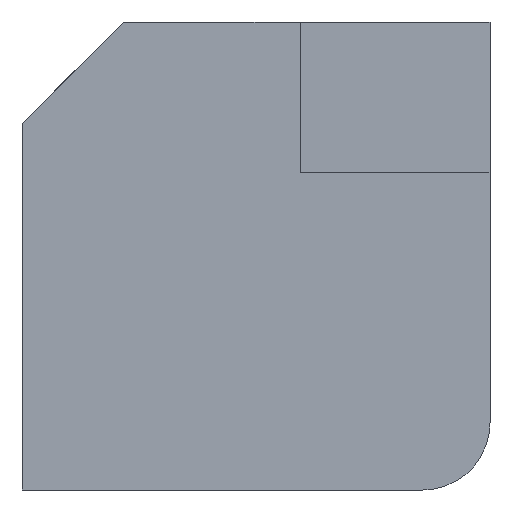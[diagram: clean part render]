
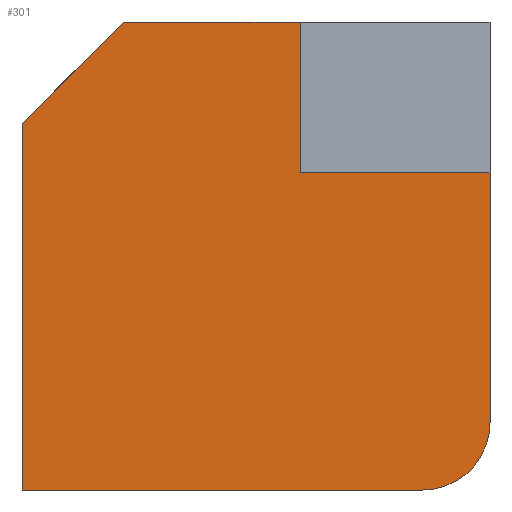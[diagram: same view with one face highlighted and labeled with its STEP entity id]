
A CAD part, front view. The second image highlights one B-rep face of the part: STEP entity #301.
In plain terms, the highlighted planar face has unit normal (0, -1, 0).
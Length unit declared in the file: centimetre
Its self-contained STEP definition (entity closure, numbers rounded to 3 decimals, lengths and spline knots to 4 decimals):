
#25 = CARTESIAN_POINT ( 'NONE',  ( 217.2594, 0., 1000. ) ) ;
#26 = ORIENTED_EDGE ( 'NONE', *, *, #459, .F. ) ;
#32 = DIRECTION ( 'NONE',  ( 0., 0., -1. ) ) ;
#35 = EDGE_CURVE ( 'NONE', #135, #428, #378, .T. ) ;
#45 = VERTEX_POINT ( 'NONE', #380 ) ;
#51 = EDGE_CURVE ( 'NONE', #391, #135, #316, .T. ) ;
#53 = AXIS2_PLACEMENT_3D ( 'NONE', #303, #189, #446 ) ;
#67 = AXIS2_PLACEMENT_3D ( 'NONE', #256, #140, #258 ) ;
#68 = VECTOR ( 'NONE', #313, 100. ) ;
#71 = VERTEX_POINT ( 'NONE', #81 ) ;
#74 = DIRECTION ( 'NONE',  ( -0.707, 0., -0.707 ) ) ;
#77 = CARTESIAN_POINT ( 'NONE',  ( 594.2567, 0., 677.8574 ) ) ;
#81 = CARTESIAN_POINT ( 'NONE',  ( 594.2567, 0., 1000. ) ) ;
#83 = LINE ( 'NONE', #25, #421 ) ;
#84 = DIRECTION ( 'NONE',  ( 1., 0., 0. ) ) ;
#87 = ORIENTED_EDGE ( 'NONE', *, *, #35, .T. ) ;
#93 = CARTESIAN_POINT ( 'NONE',  ( 856.3072, 0., 0. ) ) ;
#99 = VERTEX_POINT ( 'NONE', #343 ) ;
#112 = EDGE_CURVE ( 'NONE', #99, #71, #234, .T. ) ;
#120 = VECTOR ( 'NONE', #32, 100. ) ;
#124 = CARTESIAN_POINT ( 'NONE',  ( 0., 0., 0. ) ) ;
#135 = VERTEX_POINT ( 'NONE', #93 ) ;
#138 = CARTESIAN_POINT ( 'NONE',  ( 0., 0., 0. ) ) ;
#140 = DIRECTION ( 'NONE',  ( 0., 1., 0. ) ) ;
#141 = ORIENTED_EDGE ( 'NONE', *, *, #112, .F. ) ;
#150 = CARTESIAN_POINT ( 'NONE',  ( 0., 0., 1000. ) ) ;
#151 = LINE ( 'NONE', #408, #348 ) ;
#154 = VECTOR ( 'NONE', #155, 100. ) ;
#155 = DIRECTION ( 'NONE',  ( 1., 0., 0. ) ) ;
#160 = DIRECTION ( 'NONE',  ( 0., 0., -1. ) ) ;
#162 = EDGE_CURVE ( 'NONE', #291, #355, #360, .T. ) ;
#172 = ORIENTED_EDGE ( 'NONE', *, *, #162, .F. ) ;
#176 = CARTESIAN_POINT ( 'NONE',  ( 594.2567, 0., 677.8574 ) ) ;
#181 = CARTESIAN_POINT ( 'NONE',  ( 594.2567, 0., 677.8574 ) ) ;
#189 = DIRECTION ( 'NONE',  ( 0., -1., 0. ) ) ;
#214 = EDGE_CURVE ( 'NONE', #99, #45, #83, .T. ) ;
#217 = LINE ( 'NONE', #176, #120 ) ;
#232 = CARTESIAN_POINT ( 'NONE',  ( 1000., 0., 1000. ) ) ;
#234 = LINE ( 'NONE', #150, #388 ) ;
#256 = CARTESIAN_POINT ( 'NONE',  ( 0., 0., 1000. ) ) ;
#258 = DIRECTION ( 'NONE',  ( 0., 0., 1. ) ) ;
#291 = VERTEX_POINT ( 'NONE', #181 ) ;
#301 = ADVANCED_FACE ( 'NONE', ( #401 ), #337, .F. ) ;
#303 = CARTESIAN_POINT ( 'NONE',  ( 856.3072, 0., 143.6928 ) ) ;
#313 = DIRECTION ( 'NONE',  ( 1., 0., 0. ) ) ;
#316 = LINE ( 'NONE', #124, #68 ) ;
#337 = PLANE ( 'NONE',  #67 ) ;
#343 = CARTESIAN_POINT ( 'NONE',  ( 217.2594, 0., 1000. ) ) ;
#348 = VECTOR ( 'NONE', #377, 100. ) ;
#352 = EDGE_CURVE ( 'NONE', #71, #291, #217, .T. ) ;
#355 = VERTEX_POINT ( 'NONE', #403 ) ;
#360 = LINE ( 'NONE', #77, #154 ) ;
#364 = ORIENTED_EDGE ( 'NONE', *, *, #352, .F. ) ;
#366 = ORIENTED_EDGE ( 'NONE', *, *, #51, .T. ) ;
#368 = ORIENTED_EDGE ( 'NONE', *, *, #214, .T. ) ;
#375 = EDGE_CURVE ( 'NONE', #45, #391, #151, .T. ) ;
#377 = DIRECTION ( 'NONE',  ( 0., 0., -1. ) ) ;
#378 = CIRCLE ( 'NONE', #53, 143.6928 ) ;
#380 = CARTESIAN_POINT ( 'NONE',  ( 0., 0., 782.7406 ) ) ;
#388 = VECTOR ( 'NONE', #84, 100. ) ;
#391 = VERTEX_POINT ( 'NONE', #138 ) ;
#394 = VECTOR ( 'NONE', #160, 100. ) ;
#398 = EDGE_LOOP ( 'NONE', ( #172, #364, #141, #368, #433, #366, #87, #26 ) ) ;
#401 = FACE_OUTER_BOUND ( 'NONE', #398, .T. ) ;
#403 = CARTESIAN_POINT ( 'NONE',  ( 1000., 0., 677.8574 ) ) ;
#408 = CARTESIAN_POINT ( 'NONE',  ( 0., 0., 1000. ) ) ;
#413 = CARTESIAN_POINT ( 'NONE',  ( 1000., 0., 143.6928 ) ) ;
#421 = VECTOR ( 'NONE', #74, 100. ) ;
#428 = VERTEX_POINT ( 'NONE', #413 ) ;
#433 = ORIENTED_EDGE ( 'NONE', *, *, #375, .T. ) ;
#446 = DIRECTION ( 'NONE',  ( 0., 0., 1. ) ) ;
#451 = LINE ( 'NONE', #232, #394 ) ;
#459 = EDGE_CURVE ( 'NONE', #355, #428, #451, .T. ) ;
